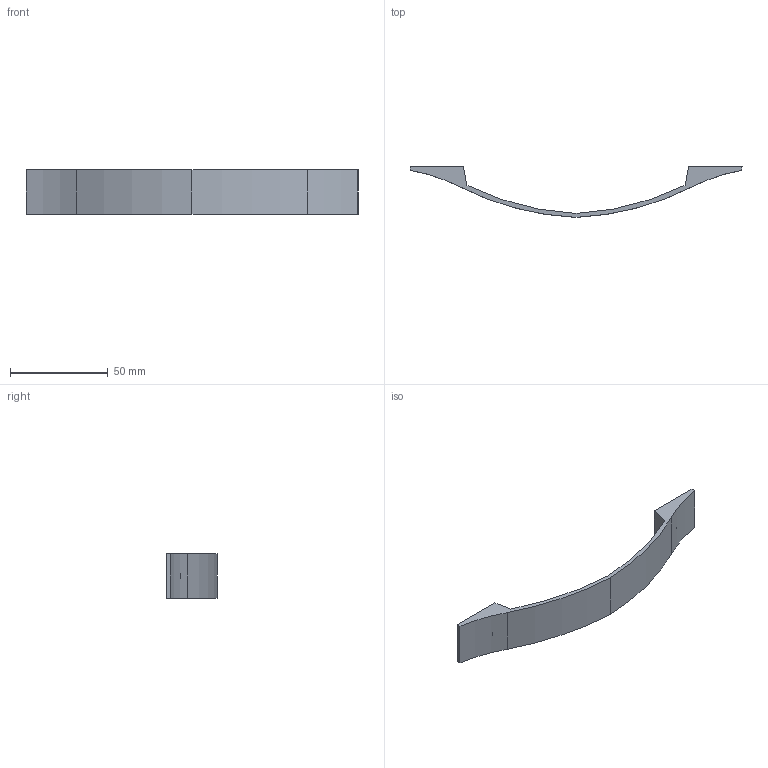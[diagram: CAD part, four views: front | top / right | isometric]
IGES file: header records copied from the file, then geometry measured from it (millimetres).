
Start section: Data from Parasolid IGES Translator 15.0.47, Copyright(c) 2006 Siemens P LM Software. All Rights Reserved.
Global section: file name: 9065611.igs; native system:  By UGS Corp.; preprocessor: XPlus GENERIC/IGES 3.0; author: Noname; organization: Noname; date: 20140123.103416; units: millimetre
Bounding box: 170 x 26 x 23 mm (x, y, z)
Surface area: 9957.8 mm2 (no closed solid volume)
Topology: 0 solids, 0 shells, 18 faces, 84 edges, 82 vertices
Faces by surface type: extrusion 10, revolution 8
